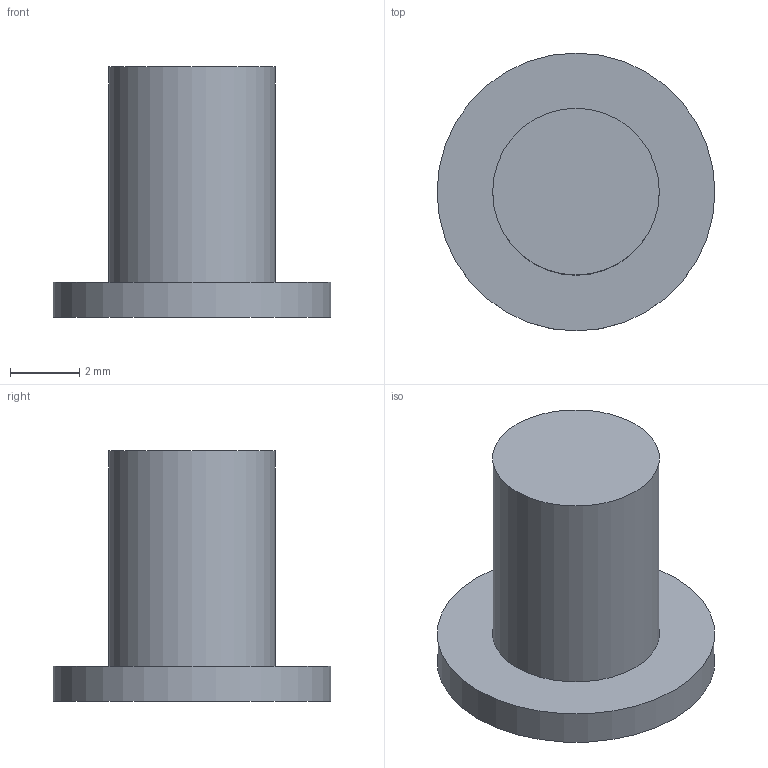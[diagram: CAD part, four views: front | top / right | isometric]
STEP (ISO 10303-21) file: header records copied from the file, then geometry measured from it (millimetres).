
FILE_DESCRIPTION(/* description */ ('STEP AP242 Edition 2','CAx-IF Rec.Pracs.---Representation and Presentation of Product Manufacturing Information (PMI)---4.0---2014-10-13','CAx-IF Rec.Pracs.---3D Tessellated Geometry---0.4---2014-09-14','2;1','CAx-IF Rec.Pracs.---User Defined Attributes---1.5---2016-08-15'),/* implementation_level */ '2;1');
FILE_NAME(/* name */ 'Untitled - Button',/* time_stamp */ '2026-05-27T17:40:31Z',/* author */ (''),/* organization */ (''),/* preprocessor_version */ 'ST-DEVELOPER v20',/* originating_system */ 'ONSHAPE BY PTC INC, 1.215',/* authorisation */ ' ');
FILE_SCHEMA (('AP242_MANAGED_MODEL_BASED_3D_ENGINEERING_MIM_LF { 1 0 10303 442 3 1 4 }'));
Length unit declared in the file: metre
Products named in the file (1): Button
Bounding box: 8 x 8 x 7.2 mm (x, y, z)
Volume: 162.5 mm3; surface area: 219.2 mm2
Topology: 1 solids, 1 shells, 5 faces, 6 edges, 4 vertices
Faces by surface type: plane 3, cylinder 2
Full cylindrical faces by diameter (mm): 4.8 x1, 8 x1
Entity records: 116 total; most frequent: DIRECTION 20, CARTESIAN_POINT 14, AXIS2_PLACEMENT_3D 10, ORIENTED_EDGE 8, EDGE_LOOP 8, FACE_BOUND 8, ADVANCED_FACE 5, EDGE_CURVE 4
